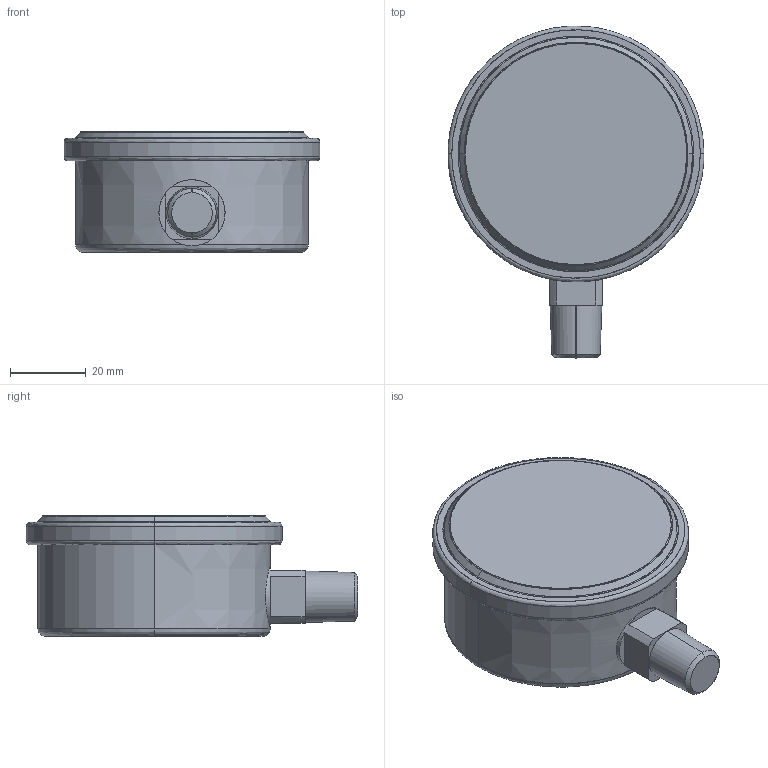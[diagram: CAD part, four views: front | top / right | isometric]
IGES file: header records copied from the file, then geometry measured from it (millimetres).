
Start section: SolidWorks IGES file using analytic representation for surfaces
Global section: file name: L:\電子カタログ-3D_IGES\JGAxx1.igs; native system: SolidWorks 2009; preprocessor: SolidWorks 2009; author: D211; date: 100316.133107; units: millimetre
Bounding box: 67.8 x 87.9 x 32 mm (x, y, z)
Surface area: 14320.8 mm2 (no closed solid volume)
Topology: 0 solids, 0 shells, 37 faces, 690 edges, 690 vertices
Faces by surface type: bspline 25, revolution 12
